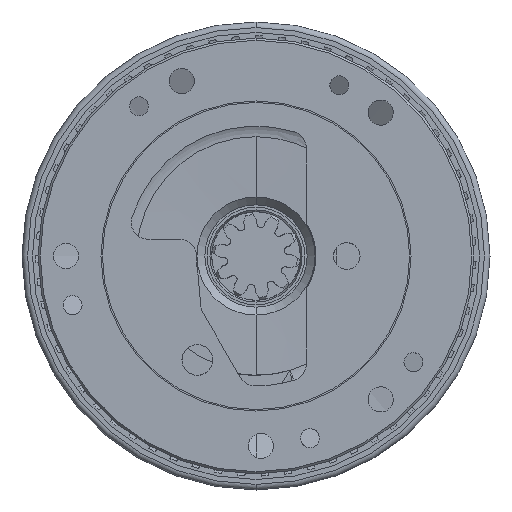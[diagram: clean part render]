
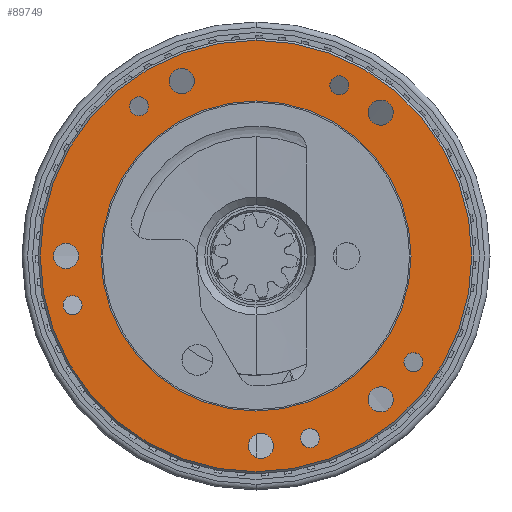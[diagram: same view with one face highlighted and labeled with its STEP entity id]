
A CAD part, front view. The second image highlights one B-rep face of the part: STEP entity #89749.
In plain terms, the highlighted planar face has unit normal (0, -1, 0).
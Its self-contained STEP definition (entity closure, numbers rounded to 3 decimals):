
#11691=CARTESIAN_POINT('',(0.,3.6,0.));
#11692=DIRECTION('',(0.,1.,0.));
#11693=DIRECTION('',(0.,0.,1.));
#11694=AXIS2_PLACEMENT_3D('',#11691,#11692,#11693);
#11696=CARTESIAN_POINT('',(0.,3.6,0.));
#11697=DIRECTION('',(0.,-1.,0.));
#11698=DIRECTION('',(0.,0.,1.));
#11699=AXIS2_PLACEMENT_3D('',#11696,#11697,#11698);
#11701=CARTESIAN_POINT('',(-68.,3.6,0.));
#11702=DIRECTION('',(0.,-1.,0.));
#11703=DIRECTION('',(0.,0.,-1.));
#11704=AXIS2_PLACEMENT_3D('',#11701,#11702,#11703);
#11706=CARTESIAN_POINT('',(-68.,3.6,0.));
#11707=DIRECTION('',(0.,-1.,0.));
#11708=DIRECTION('',(0.,0.,1.));
#11709=AXIS2_PLACEMENT_3D('',#11706,#11707,#11708);
#11711=CARTESIAN_POINT('',(1.78,3.6,-67.977));
#11712=DIRECTION('',(0.,-1.,0.));
#11713=DIRECTION('',(1.,0.,0.026));
#11714=AXIS2_PLACEMENT_3D('',#11711,#11712,#11713);
#11716=CARTESIAN_POINT('',(1.78,3.6,-67.977));
#11717=DIRECTION('',(0.,-1.,0.));
#11718=DIRECTION('',(-1.,0.,-0.026));
#11719=AXIS2_PLACEMENT_3D('',#11716,#11717,#11718);
#11721=CARTESIAN_POINT('',(44.612,3.6,-51.32));
#11722=DIRECTION('',(0.,-1.,0.));
#11723=DIRECTION('',(0.755,0.,0.656));
#11724=AXIS2_PLACEMENT_3D('',#11721,#11722,#11723);
#11726=CARTESIAN_POINT('',(44.612,3.6,-51.32));
#11727=DIRECTION('',(0.,-1.,0.));
#11728=DIRECTION('',(-0.755,0.,-0.656));
#11729=AXIS2_PLACEMENT_3D('',#11726,#11727,#11728);
#11731=CARTESIAN_POINT('',(44.612,3.6,51.32));
#11732=DIRECTION('',(0.,-1.,0.));
#11733=DIRECTION('',(-0.755,0.,0.656));
#11734=AXIS2_PLACEMENT_3D('',#11731,#11732,#11733);
#11736=CARTESIAN_POINT('',(44.612,3.6,51.32));
#11737=DIRECTION('',(0.,-1.,0.));
#11738=DIRECTION('',(0.755,0.,-0.656));
#11739=AXIS2_PLACEMENT_3D('',#11736,#11737,#11738);
#11741=CARTESIAN_POINT('',(-26.57,3.6,62.594));
#11742=DIRECTION('',(0.,-1.,0.));
#11743=DIRECTION('',(-0.921,0.,-0.391));
#11744=AXIS2_PLACEMENT_3D('',#11741,#11742,#11743);
#11746=CARTESIAN_POINT('',(-26.57,3.6,62.594));
#11747=DIRECTION('',(0.,-1.,0.));
#11748=DIRECTION('',(0.921,0.,0.391));
#11749=AXIS2_PLACEMENT_3D('',#11746,#11747,#11748);
#11751=CARTESIAN_POINT('',(0.,3.6,0.));
#11752=DIRECTION('',(0.,-1.,0.));
#11753=DIRECTION('',(0.,0.,1.));
#11754=AXIS2_PLACEMENT_3D('',#11751,#11752,#11753);
#11756=CARTESIAN_POINT('',(0.,3.6,0.));
#11757=DIRECTION('',(0.,-1.,0.));
#11758=DIRECTION('',(0.,0.,-1.));
#11759=AXIS2_PLACEMENT_3D('',#11756,#11757,#11758);
#11761=CARTESIAN_POINT('',(56.375,3.6,-38.025));
#11762=DIRECTION('',(0.,-1.,0.));
#11763=DIRECTION('',(0.,0.,-1.));
#11764=AXIS2_PLACEMENT_3D('',#11761,#11762,#11763);
#11766=CARTESIAN_POINT('',(56.375,3.6,-38.025));
#11767=DIRECTION('',(0.,-1.,0.));
#11768=DIRECTION('',(0.,0.,1.));
#11769=AXIS2_PLACEMENT_3D('',#11766,#11767,#11768);
#11771=CARTESIAN_POINT('',(29.809,3.6,61.118));
#11772=DIRECTION('',(0.,-1.,0.));
#11773=DIRECTION('',(0.,0.,-1.));
#11774=AXIS2_PLACEMENT_3D('',#11771,#11772,#11773);
#11776=CARTESIAN_POINT('',(29.809,3.6,61.118));
#11777=DIRECTION('',(0.,-1.,0.));
#11778=DIRECTION('',(0.,0.,1.));
#11779=AXIS2_PLACEMENT_3D('',#11776,#11777,#11778);
#11781=CARTESIAN_POINT('',(-41.865,3.6,53.585));
#11782=DIRECTION('',(0.,-1.,0.));
#11783=DIRECTION('',(0.,0.,-1.));
#11784=AXIS2_PLACEMENT_3D('',#11781,#11782,#11783);
#11786=CARTESIAN_POINT('',(-41.865,3.6,53.585));
#11787=DIRECTION('',(0.,-1.,0.));
#11788=DIRECTION('',(0.,0.,1.));
#11789=AXIS2_PLACEMENT_3D('',#11786,#11787,#11788);
#11791=CARTESIAN_POINT('',(-65.683,3.6,-17.6));
#11792=DIRECTION('',(0.,-1.,0.));
#11793=DIRECTION('',(0.,0.,-1.));
#11794=AXIS2_PLACEMENT_3D('',#11791,#11792,#11793);
#11796=CARTESIAN_POINT('',(-65.683,3.6,-17.6));
#11797=DIRECTION('',(0.,-1.,0.));
#11798=DIRECTION('',(0.,0.,1.));
#11799=AXIS2_PLACEMENT_3D('',#11796,#11797,#11798);
#11801=CARTESIAN_POINT('',(19.313,3.6,-65.2));
#11802=DIRECTION('',(0.,-1.,0.));
#11803=DIRECTION('',(0.,0.,-1.));
#11804=AXIS2_PLACEMENT_3D('',#11801,#11802,#11803);
#11806=CARTESIAN_POINT('',(19.313,3.6,-65.2));
#11807=DIRECTION('',(0.,-1.,0.));
#11808=DIRECTION('',(0.,0.,1.));
#11809=AXIS2_PLACEMENT_3D('',#11806,#11807,#11808);
#64652=CARTESIAN_POINT('',(-68.,3.6,-4.5));
#64653=CARTESIAN_POINT('',(-68.,3.6,4.5));
#64654=VERTEX_POINT('',#64652);
#64655=VERTEX_POINT('',#64653);
#64674=CARTESIAN_POINT('',(6.278,3.6,-67.859));
#64675=CARTESIAN_POINT('',(-2.718,3.6,-68.094));
#64676=VERTEX_POINT('',#64674);
#64677=VERTEX_POINT('',#64675);
#64695=CARTESIAN_POINT('',(48.008,3.6,-48.368));
#64696=CARTESIAN_POINT('',(41.216,3.6,-54.273));
#64697=VERTEX_POINT('',#64695);
#64698=VERTEX_POINT('',#64696);
#64719=CARTESIAN_POINT('',(41.216,3.6,54.273));
#64720=CARTESIAN_POINT('',(48.008,3.6,48.368));
#64721=VERTEX_POINT('',#64719);
#64722=VERTEX_POINT('',#64720);
#64743=CARTESIAN_POINT('',(-30.712,3.6,60.836));
#64744=CARTESIAN_POINT('',(-22.427,3.6,64.353));
#64745=VERTEX_POINT('',#64743);
#64746=VERTEX_POINT('',#64744);
#64773=CARTESIAN_POINT('',(0.,3.6,77.25));
#64774=VERTEX_POINT('',#64773);
#64775=CARTESIAN_POINT('',(0.,3.6,-77.25));
#64776=VERTEX_POINT('',#64775);
#64897=CARTESIAN_POINT('',(0.,3.6,55.5));
#64898=CARTESIAN_POINT('',(0.,3.6,-55.5));
#64899=VERTEX_POINT('',#64897);
#64900=VERTEX_POINT('',#64898);
#64912=CARTESIAN_POINT('',(56.375,3.6,-41.425));
#64913=CARTESIAN_POINT('',(56.375,3.6,-34.625));
#64914=VERTEX_POINT('',#64912);
#64915=VERTEX_POINT('',#64913);
#64916=CARTESIAN_POINT('',(29.809,3.6,57.718));
#64917=CARTESIAN_POINT('',(29.809,3.6,64.518));
#64918=VERTEX_POINT('',#64916);
#64919=VERTEX_POINT('',#64917);
#64920=CARTESIAN_POINT('',(-41.865,3.6,50.185));
#64921=CARTESIAN_POINT('',(-41.865,3.6,56.985));
#64922=VERTEX_POINT('',#64920);
#64923=VERTEX_POINT('',#64921);
#64924=CARTESIAN_POINT('',(-65.683,3.6,-21.));
#64925=CARTESIAN_POINT('',(-65.683,3.6,-14.2));
#64926=VERTEX_POINT('',#64924);
#64927=VERTEX_POINT('',#64925);
#64928=CARTESIAN_POINT('',(19.313,3.6,-68.6));
#64929=CARTESIAN_POINT('',(19.313,3.6,-61.8));
#64930=VERTEX_POINT('',#64928);
#64931=VERTEX_POINT('',#64929);
#89675=CARTESIAN_POINT('',(0.,3.6,0.));
#89676=DIRECTION('',(0.,1.,0.));
#89677=DIRECTION('',(0.,0.,1.));
#89678=AXIS2_PLACEMENT_3D('',#89675,#89676,#89677);
#89679=PLANE('',#89678);
#89681=ORIENTED_EDGE('',*,*,#89680,.T.);
#89683=ORIENTED_EDGE('',*,*,#89682,.F.);
#89684=EDGE_LOOP('',(#89681,#89683));
#89685=FACE_OUTER_BOUND('',#89684,.F.);
#89687=ORIENTED_EDGE('',*,*,#89686,.T.);
#89689=ORIENTED_EDGE('',*,*,#89688,.T.);
#89690=EDGE_LOOP('',(#89687,#89689));
#89691=FACE_BOUND('',#89690,.F.);
#89693=ORIENTED_EDGE('',*,*,#89692,.T.);
#89695=ORIENTED_EDGE('',*,*,#89694,.T.);
#89696=EDGE_LOOP('',(#89693,#89695));
#89697=FACE_BOUND('',#89696,.F.);
#89699=ORIENTED_EDGE('',*,*,#89698,.T.);
#89701=ORIENTED_EDGE('',*,*,#89700,.T.);
#89702=EDGE_LOOP('',(#89699,#89701));
#89703=FACE_BOUND('',#89702,.F.);
#89705=ORIENTED_EDGE('',*,*,#89704,.T.);
#89707=ORIENTED_EDGE('',*,*,#89706,.T.);
#89708=EDGE_LOOP('',(#89705,#89707));
#89709=FACE_BOUND('',#89708,.F.);
#89710=ORIENTED_EDGE('',*,*,#89636,.T.);
#89711=ORIENTED_EDGE('',*,*,#89669,.T.);
#89712=EDGE_LOOP('',(#89710,#89711));
#89713=FACE_BOUND('',#89712,.F.);
#89715=ORIENTED_EDGE('',*,*,#89714,.T.);
#89717=ORIENTED_EDGE('',*,*,#89716,.T.);
#89718=EDGE_LOOP('',(#89715,#89717));
#89719=FACE_BOUND('',#89718,.F.);
#89721=ORIENTED_EDGE('',*,*,#89720,.T.);
#89723=ORIENTED_EDGE('',*,*,#89722,.T.);
#89724=EDGE_LOOP('',(#89721,#89723));
#89725=FACE_BOUND('',#89724,.F.);
#89727=ORIENTED_EDGE('',*,*,#89726,.T.);
#89729=ORIENTED_EDGE('',*,*,#89728,.T.);
#89730=EDGE_LOOP('',(#89727,#89729));
#89731=FACE_BOUND('',#89730,.F.);
#89733=ORIENTED_EDGE('',*,*,#89732,.T.);
#89735=ORIENTED_EDGE('',*,*,#89734,.T.);
#89736=EDGE_LOOP('',(#89733,#89735));
#89737=FACE_BOUND('',#89736,.F.);
#89739=ORIENTED_EDGE('',*,*,#89738,.T.);
#89741=ORIENTED_EDGE('',*,*,#89740,.T.);
#89742=EDGE_LOOP('',(#89739,#89741));
#89743=FACE_BOUND('',#89742,.F.);
#89744=ORIENTED_EDGE('',*,*,#88301,.T.);
#89746=ORIENTED_EDGE('',*,*,#89745,.T.);
#89747=EDGE_LOOP('',(#89744,#89746));
#89748=FACE_BOUND('',#89747,.F.);
#89749=ADVANCED_FACE('',(#89685,#89691,#89697,#89703,#89709,#89713,#89719,
#89725,#89731,#89737,#89743,#89748),#89679,.F.);
#11695=CIRCLE('',#11694,77.25);
#11700=CIRCLE('',#11699,77.25);
#11705=CIRCLE('',#11704,4.5);
#11710=CIRCLE('',#11709,4.5);
#11715=CIRCLE('',#11714,4.5);
#11720=CIRCLE('',#11719,4.5);
#11725=CIRCLE('',#11724,4.5);
#11730=CIRCLE('',#11729,4.5);
#11735=CIRCLE('',#11734,4.5);
#11740=CIRCLE('',#11739,4.5);
#11745=CIRCLE('',#11744,4.5);
#11750=CIRCLE('',#11749,4.5);
#11755=CIRCLE('',#11754,55.5);
#11760=CIRCLE('',#11759,55.5);
#11765=CIRCLE('',#11764,3.4);
#11770=CIRCLE('',#11769,3.4);
#11775=CIRCLE('',#11774,3.4);
#11780=CIRCLE('',#11779,3.4);
#11785=CIRCLE('',#11784,3.4);
#11790=CIRCLE('',#11789,3.4);
#11795=CIRCLE('',#11794,3.4);
#11800=CIRCLE('',#11799,3.4);
#11805=CIRCLE('',#11804,3.4);
#11810=CIRCLE('',#11809,3.4);
#88301=EDGE_CURVE('',#64930,#64931,#11805,.T.);
#89636=EDGE_CURVE('',#64745,#64746,#11745,.T.);
#89669=EDGE_CURVE('',#64746,#64745,#11750,.T.);
#89680=EDGE_CURVE('',#64774,#64776,#11695,.T.);
#89682=EDGE_CURVE('',#64774,#64776,#11700,.T.);
#89686=EDGE_CURVE('',#64654,#64655,#11705,.T.);
#89688=EDGE_CURVE('',#64655,#64654,#11710,.T.);
#89692=EDGE_CURVE('',#64676,#64677,#11715,.T.);
#89694=EDGE_CURVE('',#64677,#64676,#11720,.T.);
#89698=EDGE_CURVE('',#64697,#64698,#11725,.T.);
#89700=EDGE_CURVE('',#64698,#64697,#11730,.T.);
#89704=EDGE_CURVE('',#64721,#64722,#11735,.T.);
#89706=EDGE_CURVE('',#64722,#64721,#11740,.T.);
#89714=EDGE_CURVE('',#64899,#64900,#11755,.T.);
#89716=EDGE_CURVE('',#64900,#64899,#11760,.T.);
#89720=EDGE_CURVE('',#64914,#64915,#11765,.T.);
#89722=EDGE_CURVE('',#64915,#64914,#11770,.T.);
#89726=EDGE_CURVE('',#64918,#64919,#11775,.T.);
#89728=EDGE_CURVE('',#64919,#64918,#11780,.T.);
#89732=EDGE_CURVE('',#64922,#64923,#11785,.T.);
#89734=EDGE_CURVE('',#64923,#64922,#11790,.T.);
#89738=EDGE_CURVE('',#64926,#64927,#11795,.T.);
#89740=EDGE_CURVE('',#64927,#64926,#11800,.T.);
#89745=EDGE_CURVE('',#64931,#64930,#11810,.T.);
